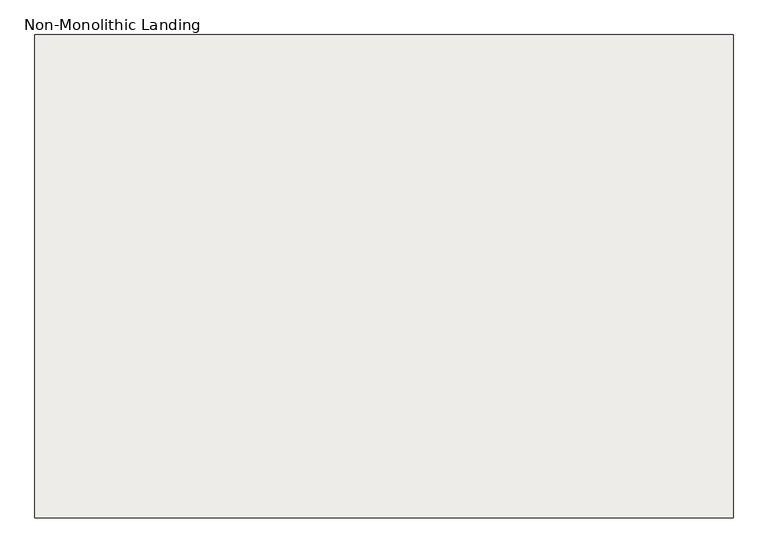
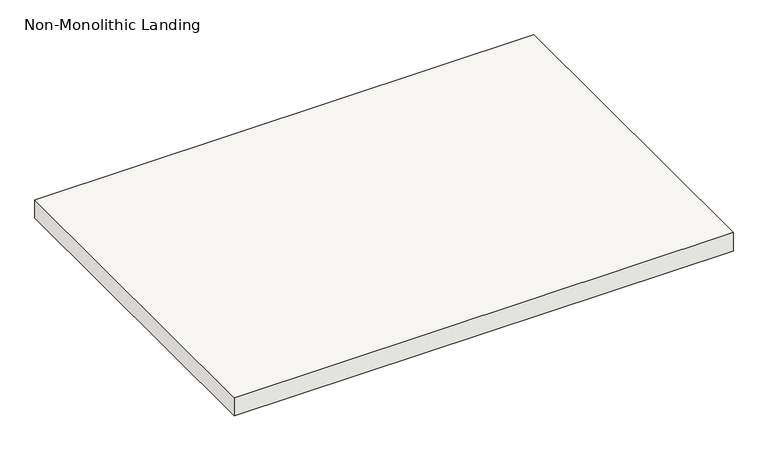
"""IFC4 building model written with IfcOpenShell, lengths in millimetres: slab geometry, Non-Monolithic Landing."""

from ifc_helpers import new_model, si_unit, frame, origin, place, context, project, spatial, polyline, outline, extrude, source, transform, mapped, element, save


def non_monolithic_landing_8fa44552(model_context):
    return source(origin(), model_context, "Body", "SweptSolid", [
        extrude(outline(polyline([(1098.5536861, 36930.1361774), (2419.3536861, 36930.1361774), (2419.3536861, 36015.7361774), (1098.5536861, 36015.7361774), (1098.5536861, 36930.1361774)])), frame((0.0, 0.0, 2126.3428571), z_axis=(0.0, 0.0, 1.0), x_axis=(1.0, 0.0, 0.0)), (0.0, 0.0, 1.0), 50.8),
    ])


if __name__ == "__main__":
    model = new_model("IFC4")
    model_context = context("Model", 3, world=origin())
    ifc_project = project(units=[si_unit("LENGTHUNIT", "METRE", prefix="MILLI")], contexts=[model_context])
    site = spatial("IfcSite", under=ifc_project)
    building = spatial("IfcBuilding", under=site)
    placement = place(None, origin())
    non_monolithic_landing_shape = non_monolithic_landing_8fa44552(model_context)
    element("IfcSlab", 1, ObjectType="Non-Monolithic Landing", at=placement, inside=building, context=model_context, shape_type="MappedRepresentation", body=[
        mapped(non_monolithic_landing_shape, transform((0.0, 0.0, 0.0), x_axis=(1.0, 0.0, 0.0), y_axis=(0.0, 1.0, 0.0), z_axis=(0.0, 0.0, 1.0))),
    ])
    save(model, "model.ifc")
